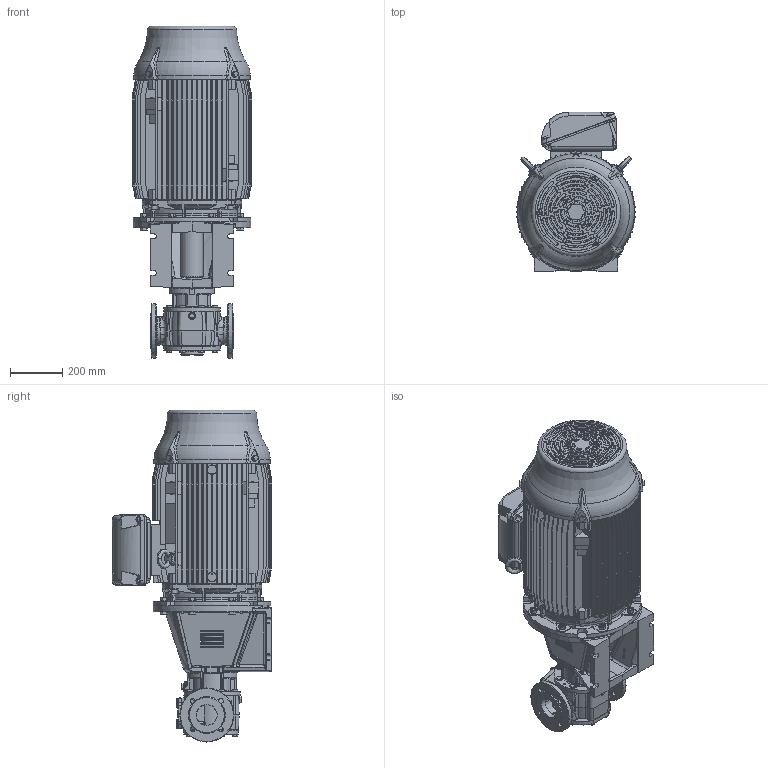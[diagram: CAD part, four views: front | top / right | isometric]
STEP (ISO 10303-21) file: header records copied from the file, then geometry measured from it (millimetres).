
FILE_DESCRIPTION(/* description */ (''),/* implementation_level */ '2;1');
FILE_NAME(/* name */ 'C:\V\JPP\Designs\GEAR PUMPS\PRODUCT ENGINEERING\EUROPE\TG BLOC\TG BLOC_58-80_R3_O_NRV-_225-STEP.stp',/* time_stamp */ '2021-03-19T11:34:22+01:00',/* author */ ('A77THR'),/* organization */ (''),/* preprocessor_version */ 'ST-DEVELOPER v18.1',/* originating_system */ 'Autodesk Inventor 2020',/* authorisation */ '');
FILE_SCHEMA (('AUTOMOTIVE_DESIGN { 1 0 10303 214 3 1 1 }'));
Length unit declared in the file: millimetre
Products named in the file (1): TG BLOC_58-80_R3_O_NRV-_225
Bounding box: 455 x 607.99 x 1265.96 mm (x, y, z)
Volume: 117915408.5 mm3; surface area: 4590285.8 mm2
Topology: 1 solids, 1 shells, 4652 faces, 12304 edges, 7855 vertices
Faces by surface type: plane 2098, cone 980, bspline 768, cylinder 656, torus 111, sphere 39
Full cylindrical faces by diameter (mm): 4.5 x4, 4.917 x3, 6.647 x1, 7.323 x14, 8 x10, 9 x14, 10 x8, 10.106 x7, 10.2 x2, 11.053 x4, 11.4 x14, 11.445 x2, 12 x4, 13 x1, 13.157 x2, 13.2 x2, 13.835 x8, 14 x8, 14.8 x4, 15.011 x2, 17.2 x20, 17.5 x1, 18 x10, 18.1 x8, 19 x2, 20 x2, 20.955 x1, 21 x6, 21.2 x1, 21.939 x2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
Entity records: 197083 total; most frequent: CARTESIAN_POINT 83284, ORIENTED_EDGE 24464, DIRECTION 21011, EDGE_CURVE 12232, AXIS2_PLACEMENT_3D 7953, VERTEX_POINT 7847, LINE 5105, VECTOR 5105
